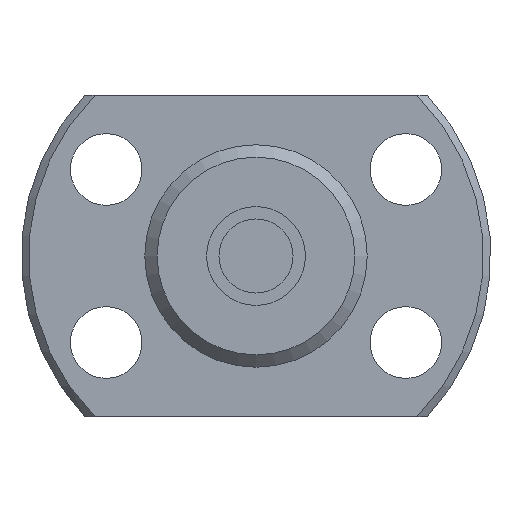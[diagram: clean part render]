
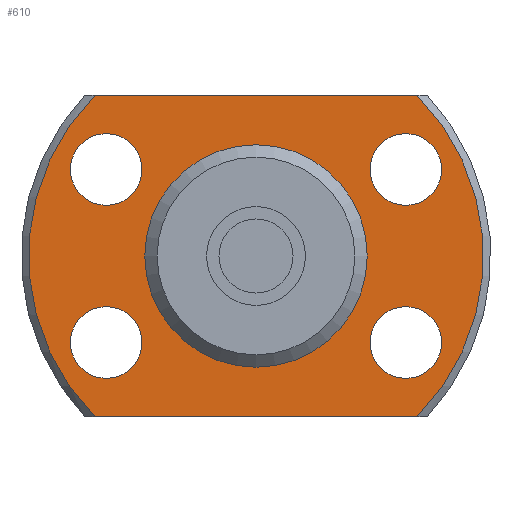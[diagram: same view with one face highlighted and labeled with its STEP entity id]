
A CAD part, left-side view. The second image highlights one B-rep face of the part: STEP entity #610.
In plain terms, the highlighted planar face has unit normal (-1, 0, 0) as drawn and (1, 0, 0) by its records, which use the part's own axes.
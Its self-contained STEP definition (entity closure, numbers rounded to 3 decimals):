
#59=LINE('',#1081,#75);
#60=LINE('',#1083,#76);
#75=VECTOR('',#895,1000.);
#76=VECTOR('',#896,1000.);
#186=ORIENTED_EDGE('',*,*,#285,.T.);
#187=ORIENTED_EDGE('',*,*,#263,.T.);
#188=ORIENTED_EDGE('',*,*,#286,.T.);
#189=ORIENTED_EDGE('',*,*,#287,.T.);
#190=ORIENTED_EDGE('',*,*,#288,.F.);
#191=ORIENTED_EDGE('',*,*,#289,.F.);
#192=ORIENTED_EDGE('',*,*,#290,.F.);
#193=ORIENTED_EDGE('',*,*,#291,.F.);
#194=ORIENTED_EDGE('',*,*,#284,.F.);
#263=EDGE_CURVE('',#325,#327,#377,.T.);
#284=EDGE_CURVE('',#346,#346,#392,.T.);
#285=EDGE_CURVE('',#347,#325,#59,.T.);
#286=EDGE_CURVE('',#327,#348,#60,.T.);
#287=EDGE_CURVE('',#348,#347,#393,.T.);
#288=EDGE_CURVE('',#349,#349,#394,.T.);
#289=EDGE_CURVE('',#350,#350,#395,.T.);
#290=EDGE_CURVE('',#351,#351,#396,.T.);
#291=EDGE_CURVE('',#352,#352,#397,.T.);
#325=VERTEX_POINT('',#1016);
#327=VERTEX_POINT('',#1023);
#346=VERTEX_POINT('',#1079);
#347=VERTEX_POINT('',#1082);
#348=VERTEX_POINT('',#1084);
#349=VERTEX_POINT('',#1087);
#350=VERTEX_POINT('',#1089);
#351=VERTEX_POINT('',#1091);
#352=VERTEX_POINT('',#1093);
#377=CIRCLE('',#693,9.2);
#392=CIRCLE('',#717,4.3);
#393=CIRCLE('',#719,9.2);
#394=CIRCLE('',#720,1.45);
#395=CIRCLE('',#721,1.45);
#396=CIRCLE('',#722,1.45);
#397=CIRCLE('',#723,1.45);
#460=EDGE_LOOP('',(#186,#187,#188,#189));
#461=EDGE_LOOP('',(#190));
#462=EDGE_LOOP('',(#191));
#463=EDGE_LOOP('',(#192));
#464=EDGE_LOOP('',(#193));
#465=EDGE_LOOP('',(#194));
#540=FACE_BOUND('',#460,.T.);
#541=FACE_BOUND('',#461,.T.);
#542=FACE_BOUND('',#462,.T.);
#543=FACE_BOUND('',#463,.T.);
#544=FACE_BOUND('',#464,.T.);
#545=FACE_BOUND('',#465,.T.);
#574=PLANE('',#718);
#610=ADVANCED_FACE('',(#540,#541,#542,#543,#544,#545),#574,.T.);
#693=AXIS2_PLACEMENT_3D('',#1024,#839,#840);
#717=AXIS2_PLACEMENT_3D('',#1078,#891,#892);
#718=AXIS2_PLACEMENT_3D('',#1080,#893,#894);
#719=AXIS2_PLACEMENT_3D('',#1085,#897,#898);
#720=AXIS2_PLACEMENT_3D('',#1086,#899,#900);
#721=AXIS2_PLACEMENT_3D('',#1088,#901,#902);
#722=AXIS2_PLACEMENT_3D('',#1090,#903,#904);
#723=AXIS2_PLACEMENT_3D('',#1092,#905,#906);
#839=DIRECTION('',(1.,0.,0.));
#840=DIRECTION('',(0.,0.,-1.));
#891=DIRECTION('',(1.,0.,0.));
#892=DIRECTION('',(0.,0.,-1.));
#893=DIRECTION('',(1.,0.,0.));
#894=DIRECTION('',(0.,0.,-1.));
#895=DIRECTION('',(0.,-1.,0.));
#896=DIRECTION('',(0.,1.,0.));
#897=DIRECTION('',(1.,0.,0.));
#898=DIRECTION('',(0.,0.,-1.));
#899=DIRECTION('',(1.,0.,0.));
#900=DIRECTION('',(0.,0.,-1.));
#901=DIRECTION('',(1.,0.,0.));
#902=DIRECTION('',(0.,0.,-1.));
#903=DIRECTION('',(1.,0.,0.));
#904=DIRECTION('',(0.,0.,-1.));
#905=DIRECTION('',(1.,0.,0.));
#906=DIRECTION('',(0.,0.,-1.));
#1016=CARTESIAN_POINT('',(3.,-6.511,6.5));
#1023=CARTESIAN_POINT('',(3.,-6.511,-6.5));
#1024=CARTESIAN_POINT('',(3.,0.,0.));
#1078=CARTESIAN_POINT('',(3.,0.,0.));
#1079=CARTESIAN_POINT('',(3.,0.,-4.3));
#1080=CARTESIAN_POINT('',(3.,4.3,0.));
#1081=CARTESIAN_POINT('',(3.,9.5,6.5));
#1082=CARTESIAN_POINT('',(3.,6.511,6.5));
#1083=CARTESIAN_POINT('',(3.,-9.5,-6.5));
#1084=CARTESIAN_POINT('',(3.,6.511,-6.5));
#1085=CARTESIAN_POINT('',(3.,0.,0.));
#1086=CARTESIAN_POINT('',(3.,6.062,3.5));
#1087=CARTESIAN_POINT('',(3.,6.062,2.05));
#1088=CARTESIAN_POINT('',(3.,-6.062,3.5));
#1089=CARTESIAN_POINT('',(3.,-6.062,2.05));
#1090=CARTESIAN_POINT('',(3.,-6.062,-3.5));
#1091=CARTESIAN_POINT('',(3.,-6.062,-4.95));
#1092=CARTESIAN_POINT('',(3.,6.062,-3.5));
#1093=CARTESIAN_POINT('',(3.,6.062,-4.95));
